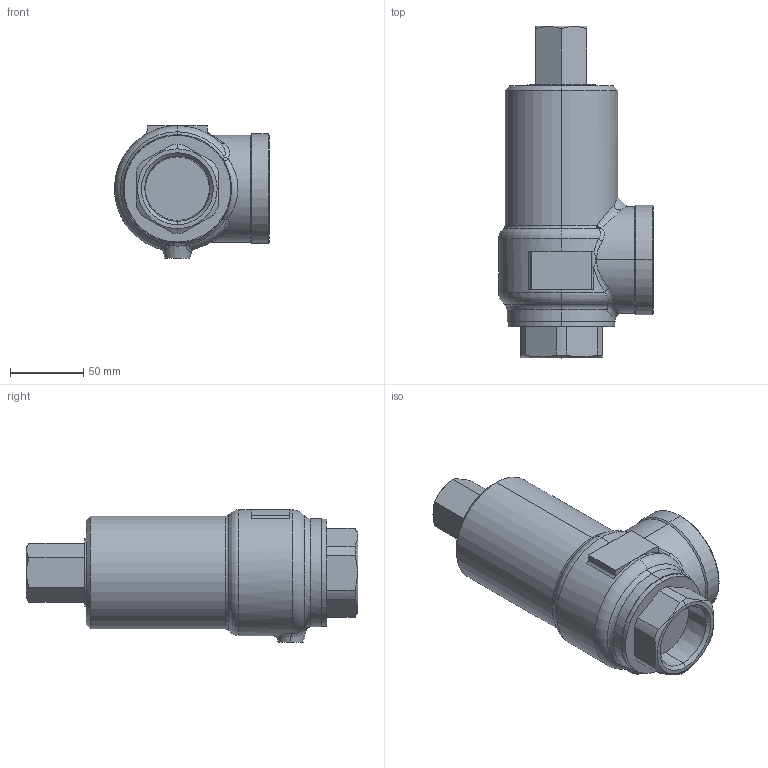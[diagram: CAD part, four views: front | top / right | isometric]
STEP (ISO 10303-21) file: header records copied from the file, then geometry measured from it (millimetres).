
FILE_DESCRIPTION (( 'STEP AP203' ), '1' );
FILE_NAME ('AL-140H 40A.STEP', '2026-01-08T06:51:45', ( '' ), ( '' ), 'SwSTEP 2.0', 'SolidWorks 2024', '' );
FILE_SCHEMA (( 'CONFIG_CONTROL_DESIGN' ));
Length unit declared in the file: millimetre
Products named in the file (1): AL-140H 40A
Bounding box: 106 x 227 x 90.5 mm (x, y, z)
Volume: 955766.6 mm3; surface area: 71674.9 mm2
Topology: 1 solids, 1 shells, 110 faces, 258 edges, 154 vertices
Faces by surface type: plane 29, cylinder 25, cone 22, bspline 22, torus 12
Entity records: 4936 total; most frequent: CARTESIAN_POINT 2495, ORIENTED_EDGE 512, DIRECTION 474, EDGE_CURVE 256, AXIS2_PLACEMENT_3D 196, VERTEX_POINT 154, EDGE_LOOP 116, ADVANCED_FACE 110
